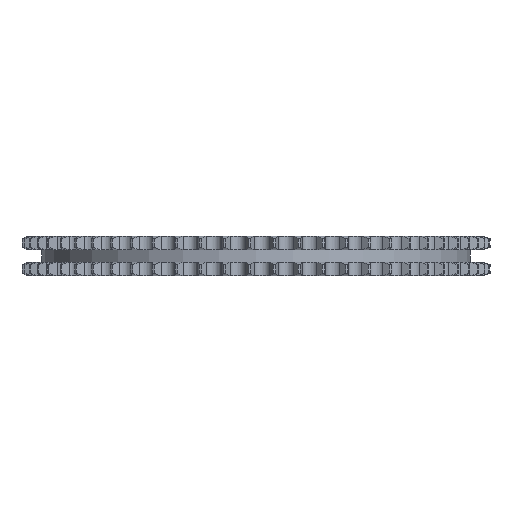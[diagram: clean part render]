
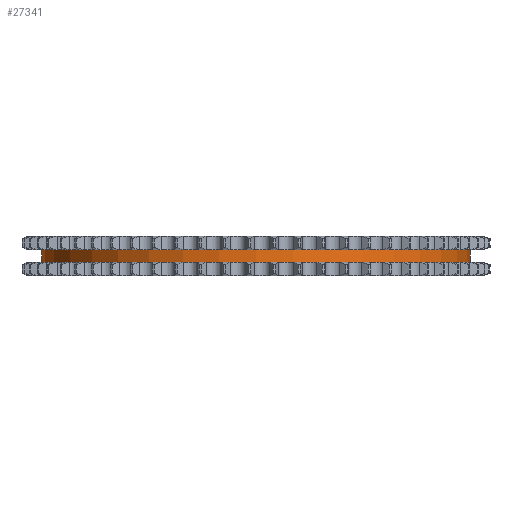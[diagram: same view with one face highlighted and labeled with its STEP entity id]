
A CAD part, left-side view. The second image highlights one B-rep face of the part: STEP entity #27341.
In plain terms, the highlighted cylindrical face has radius 83.483 mm (diameter 166.967 mm), a partial arc.
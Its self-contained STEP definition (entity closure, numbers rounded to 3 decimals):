
#5234=DIRECTION('',(0.,0.,-1.));
#5235=VECTOR('',#5234,4.8);
#5236=CARTESIAN_POINT('',(0.,83.483,2.4));
#5237=LINE('',#5236,#5235);
#5241=CARTESIAN_POINT('',(0.,0.,2.4));
#5242=DIRECTION('',(0.,0.,1.));
#5243=DIRECTION('',(0.,1.,0.));
#5244=AXIS2_PLACEMENT_3D('',#5241,#5242,#5243);
#5249=DIRECTION('',(0.,0.,-1.));
#5250=VECTOR('',#5249,4.8);
#5251=CARTESIAN_POINT('',(0.,-83.483,2.4));
#5252=LINE('',#5251,#5250);
#5256=CARTESIAN_POINT('',(0.,0.,-2.4));
#5257=DIRECTION('',(0.,0.,1.));
#5258=DIRECTION('',(0.,1.,0.));
#5259=AXIS2_PLACEMENT_3D('',#5256,#5257,#5258);
#21536=CARTESIAN_POINT('',(0.,83.483,2.4));
#21537=CARTESIAN_POINT('',(0.,83.483,-2.4));
#21538=VERTEX_POINT('',#21536);
#21539=VERTEX_POINT('',#21537);
#21540=CARTESIAN_POINT('',(0.,-83.483,2.4));
#21541=CARTESIAN_POINT('',(0.,-83.483,-2.4));
#21542=VERTEX_POINT('',#21540);
#21543=VERTEX_POINT('',#21541);
#27329=CARTESIAN_POINT('',(0.,0.,2.64));
#27330=DIRECTION('',(0.,0.,-1.));
#27331=DIRECTION('',(0.,-1.,0.));
#27332=AXIS2_PLACEMENT_3D('',#27329,#27330,#27331);
#27333=CYLINDRICAL_SURFACE('',#27332,83.483);
#27334=ORIENTED_EDGE('',*,*,#27319,.F.);
#27335=ORIENTED_EDGE('',*,*,#27309,.T.);
#27336=ORIENTED_EDGE('',*,*,#27323,.T.);
#27338=ORIENTED_EDGE('',*,*,#27337,.F.);
#27339=EDGE_LOOP('',(#27334,#27335,#27336,#27338));
#27340=FACE_OUTER_BOUND('',#27339,.F.);
#27341=ADVANCED_FACE('',(#27340),#27333,.T.);
#5245=CIRCLE('',#5244,83.483);
#5260=CIRCLE('',#5259,83.483);
#27309=EDGE_CURVE('',#21538,#21542,#5245,.T.);
#27319=EDGE_CURVE('',#21538,#21539,#5237,.T.);
#27323=EDGE_CURVE('',#21542,#21543,#5252,.T.);
#27337=EDGE_CURVE('',#21539,#21543,#5260,.T.);
